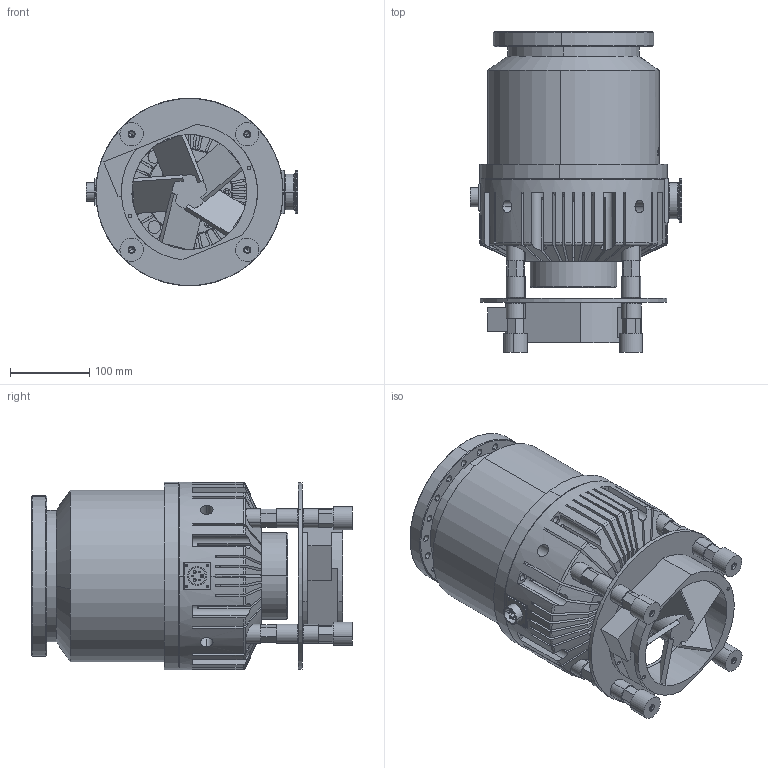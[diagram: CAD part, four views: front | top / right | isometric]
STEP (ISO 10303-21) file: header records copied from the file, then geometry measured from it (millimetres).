
FILE_DESCRIPTION (( 'STEP AP203' ), '1' );
FILE_NAME ('CF-650DZF-00W.STEP', '2025-03-29T03:23:02', ( 'User' ), ( 'China' ), 'SwSTEP 2.0', 'SolidWorks 2016', '' );
FILE_SCHEMA (( 'CONFIG_CONTROL_DESIGN' ));
Length unit declared in the file: millimetre
Products named in the file (13): 萇埭諉芛_1_1; SJJTB-600D-14-01-01W_1; ﾖｧｼﾜ_1_1; SJJTB-650DZ-01-01-00W_1; ｷ酲ﾈ_1_1; SJJTB-650DZ-01-00W_1; 600蝶杶_1_1; SJJTB-600-02_1_1; CF-650DZF-00W; SJJTB-650ZF-01AW_1_1; SJJTB-650ZF-03W_1_1; SJJTB-650ZF-04_1_1; SJJTB-650ZF-05_1_1
Assembly tree (21 placements, depth 4):
  CF-650DZF-00W
    SJJTB-650DZ-01-00W_1
      SJJTB-650DZ-01-01-00W_1
        SJJTB-600D-14-01-01W_1
    SJJTB-600-02_1_1
    SJJTB-650ZF-01AW_1_1
    SJJTB-650ZF-03W_1_1
    SJJTB-650ZF-04_1_1  x4
    SJJTB-650ZF-05_1_1  x4
    萇埭諉芛_1_1
    ﾖｧｼﾜ_1_1
    ｷ酲ﾈ_1_1
    600蝶杶_1_1  x4
Bounding box: 266.98 x 404 x 235.98 mm (x, y, z)
Volume: 11431545.9 mm3; surface area: 880204.9 mm2
Topology: 19 solids, 70 shells, 4199 faces, 11679 edges, 7721 vertices
Faces by surface type: plane 2349, bspline 1127, cylinder 518, cone 205
Entity records: 206953 total; most frequent: CARTESIAN_POINT 111791, ORIENTED_EDGE 22262, DIRECTION 14346, EDGE_CURVE 11131, VERTEX_POINT 7403, LINE 7024, VECTOR 7024, EDGE_LOOP 4302
